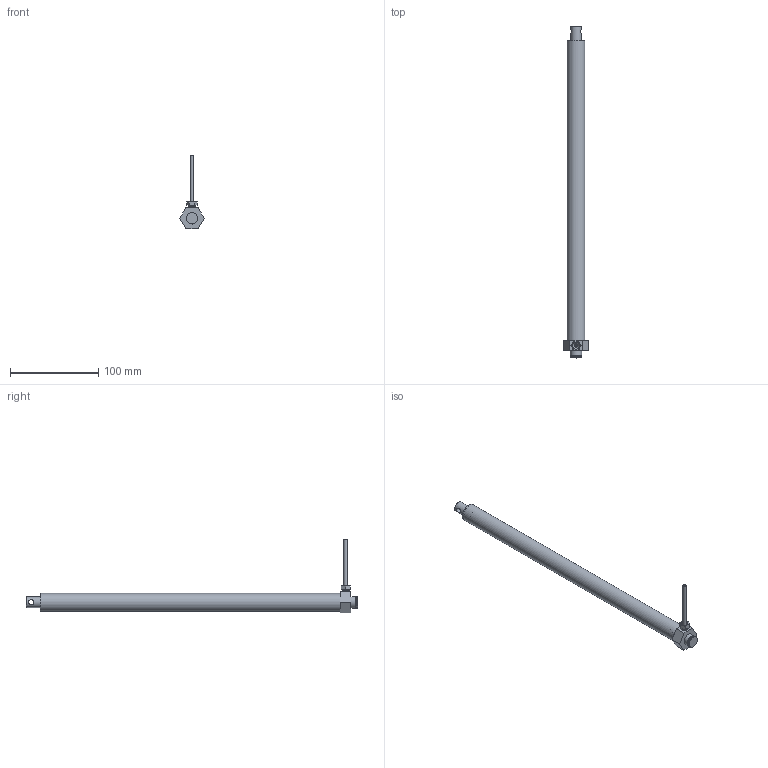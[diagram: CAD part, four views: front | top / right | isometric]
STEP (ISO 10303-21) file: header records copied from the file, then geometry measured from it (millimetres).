
FILE_DESCRIPTION(/* description */ ('Unknown'),/* implementation_level */ '2;1');
FILE_NAME(/* name */ '109.50023 Zylinder CB 1830 eingefahren',/* time_stamp */ '2018-04-19T16:44:58+02:00',/* author */ ('Unknown'),/* organization */ ('Unknown'),/* preprocessor_version */ 'ST-DEVELOPER v16.7',/* originating_system */ 'DEX',/* authorisation */ $);
FILE_SCHEMA (('AUTOMOTIVE_DESIGN {1 0 10303 214 3 1 1}'));
Length unit declared in the file: millimetre
Products named in the file (9): 109.50023; 121.50003; 142.00021; 125.00021; 115.00008_oa_0; 125.00063; 120.00003; 122.00012; 113.00002_70mm
Assembly tree (8 placements, depth 2):
  109.50023
    121.50003
    142.00021
    125.00021
    115.00008_oa_0
    125.00063
    120.00003
    122.00012
    113.00002_70mm
Bounding box: 27.71 x 376 x 83.5 mm (x, y, z)
Volume: 69279.5 mm3; surface area: 60556.6 mm2
Topology: 7 solids, 7 shells, 93 faces, 192 edges, 122 vertices
Faces by surface type: plane 37, cylinder 28, cone 23, torus 4, sphere 1
Full cylindrical faces by diameter (mm): 2.2 x1, 3 x1, 3.5 x1, 4 x1, 4.1 x1, 4.2 x1, 6 x1, 6.917 x2, 7.763 x2, 8 x3, 8.1 x3, 12 x2, 12.5 x1, 13 x2, 14.4 x1, 17.9 x2, 18 x2, 20 x1
Entity records: 2782 total; most frequent: CARTESIAN_POINT 435, DIRECTION 392, ORIENTED_EDGE 258, AXIS2_PLACEMENT_3D 177, FACE_BOUND 166, EDGE_LOOP 164, EDGE_CURVE 129, VERTEX_POINT 111
